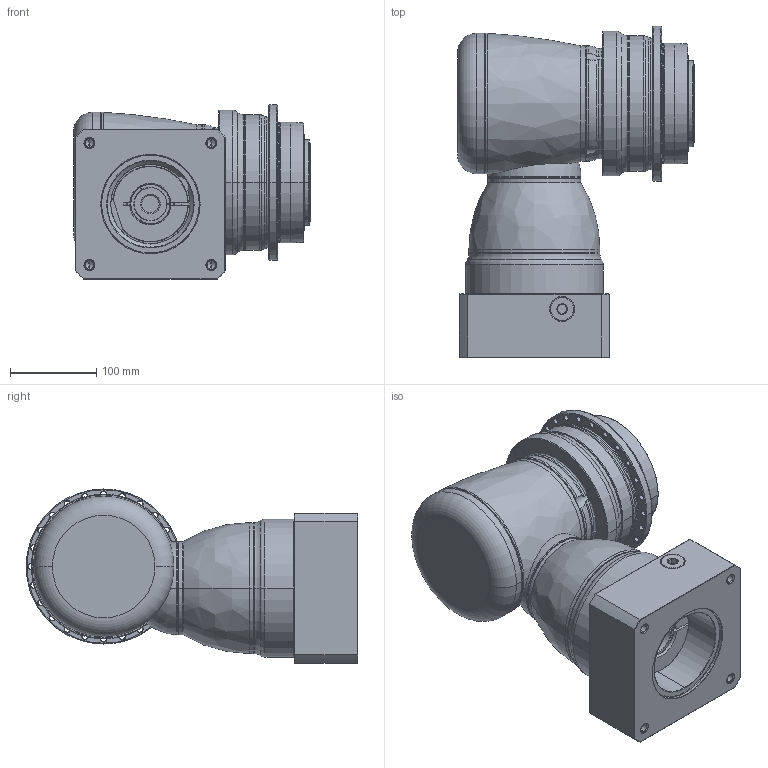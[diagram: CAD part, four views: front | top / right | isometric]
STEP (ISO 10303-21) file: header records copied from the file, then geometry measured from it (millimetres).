
FILE_DESCRIPTION((''),'2;1');
FILE_NAME('APK140_2ST_38-P0409910201_ASM','2018-05-31T',('D00080'),(''),'PRO/ENGINEER BY PARAMETRIC TECHNOLOGY CORPORATION, 2008170','PRO/ENGINEER BY PARAMETRIC TECHNOLOGY CORPORATION, 2008170','');
FILE_SCHEMA(('CONFIG_CONTROL_DESIGN'));
Length unit declared in the file: millimetre
Products named in the file (13): P1008500002; P1802510011; P0278501003; P0359501103; P1211500001; P1315500001; P1007501001; P1318501401; P0503900012; P0912554001; P0409910201; 21711422019; APK140_2ST_38-P0409910201_ASM
Assembly tree (12 placements, depth 2):
  APK140_2ST_38-P0409910201_ASM
    P1008500002
    P1802510011
    P0278501003
    P0359501103
    P1211500001
    P1315500001
    P1007501001
    P1318501401
    P0503900012
    P0912554001
    P0409910201
    21711422019
Bounding box: 274.5 x 385 x 202 mm (x, y, z)
Volume: 8853350.6 mm3; surface area: 773362.3 mm2
Topology: 13 solids, 38 shells, 849 faces, 1951 edges, 1189 vertices
Faces by surface type: cylinder 355, cone 232, plane 144, torus 97, bspline 19, sphere 2
Entity records: 29661 total; most frequent: CARTESIAN_POINT 9736, DIRECTION 4572, ORIENTED_EDGE 3712, AXIS2_PLACEMENT_3D 1958, EDGE_CURVE 1907, VERTEX_POINT 1189, CIRCLE 1093, EDGE_LOOP 1018
